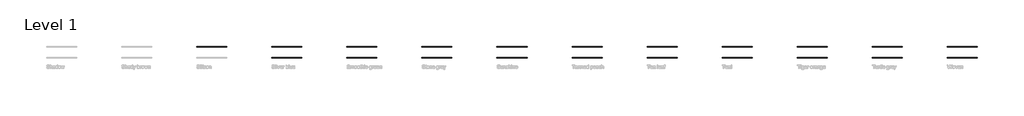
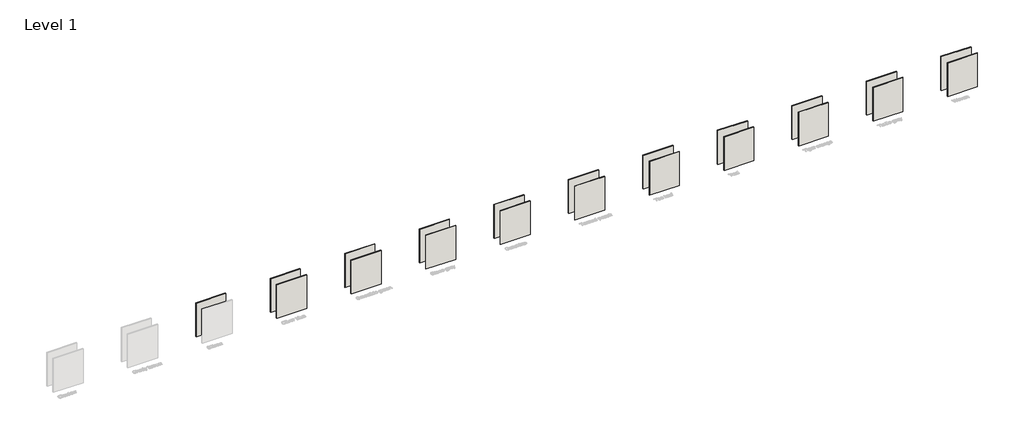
# One storey, part 4 of 113: 21 walls.
"""IFC4 building model written with IfcOpenShell, lengths in millimetres."""

from ifc_helpers import new_model, si_unit, origin, origin_with_axes, place, context, project, spatial, polyline, outline, extrude, element, save

model = new_model("IFC4")

# Units and contexts
model_context = context("Model", 3, world=origin())
ifc_project = project(units=[si_unit("LENGTHUNIT", "METRE", prefix="MILLI")], contexts=[model_context])

# Site, building, storey
site = spatial("IfcSite", under=ifc_project)
building = spatial("IfcBuilding", under=site)
storey = spatial("IfcBuildingStorey", under=building, Name="Level 1", Elevation=0.0)

# Walls
placement = place(None, origin())
element("IfcWall", 1, ObjectType="RSen_22_WA_partition wall - metal stud - chipboard - Clicwall CST Silicon  2785x600x10 mm_Unilin", at=placement, inside=storey, context=model_context, shape_type="SweptSolid", body=[
    extrude(outline(polyline([(525322.8, 6050.0), (521970.0, 6050.0), (521970.0, 6142.0), (525322.8, 6142.0), (525322.8, 6050.0)])), origin_with_axes(), (0.0, 0.0, 1.0), 4000.0),
])
element("IfcWall", 2, ObjectType="RSen_22_WA_partition wall - metal stud - Clicwall CST Silver blue 2785x600x10 mm_Unilin", at=placement, inside=storey, context=model_context, shape_type="SweptSolid", body=[
    extrude(outline(polyline([(533704.8, 4836.8), (530352.0, 4836.8), (530352.0, 4916.8), (533704.8, 4916.8), (533704.8, 4836.8)])), origin_with_axes(), (0.0, 0.0, 1.0), 4000.0),
])
element("IfcWall", 3, ObjectType="RSen_22_WA_partition wall - metal stud - chipboard - Clicwall CST Silver blue 2785x600x10 mm_Unilin", at=placement, inside=storey, context=model_context, shape_type="SweptSolid", body=[
    extrude(outline(polyline([(533704.8, 6050.0), (530352.0, 6050.0), (530352.0, 6142.0), (533704.8, 6142.0), (533704.8, 6050.0)])), origin_with_axes(), (0.0, 0.0, 1.0), 4000.0),
])
element("IfcWall", 4, ObjectType="RSen_22_WA_partition wall - metal stud - Clicwall CST Smoothie green 2785x600x10 mm_Unilin", at=placement, inside=storey, context=model_context, shape_type="SweptSolid", body=[
    extrude(outline(polyline([(542086.8, 4836.8), (538734.0, 4836.8), (538734.0, 4916.8), (542086.8, 4916.8), (542086.8, 4836.8)])), origin_with_axes(), (0.0, 0.0, 1.0), 4000.0),
])
element("IfcWall", 5, ObjectType="RSen_22_WA_partition wall - metal stud - chipboard - Clicwall CST Smoothie green 2785x600x10 mm_Unilin", at=placement, inside=storey, context=model_context, shape_type="SweptSolid", body=[
    extrude(outline(polyline([(542086.8, 6050.0), (538734.0, 6050.0), (538734.0, 6142.0), (542086.8, 6142.0), (542086.8, 6050.0)])), origin_with_axes(), (0.0, 0.0, 1.0), 4000.0),
])
element("IfcWall", 6, ObjectType="RSen_22_WA_partition wall - metal stud - Clicwall CST Stone grey 2785x600x10 mm_Unilin", at=placement, inside=storey, context=model_context, shape_type="SweptSolid", body=[
    extrude(outline(polyline([(550468.8, 4836.8), (547116.0, 4836.8), (547116.0, 4916.8), (550468.8, 4916.8), (550468.8, 4836.8)])), origin_with_axes(), (0.0, 0.0, 1.0), 4000.0),
])
element("IfcWall", 7, ObjectType="RSen_22_WA_partition wall - metal stud - chipboard - Clicwall CST Stone grey 2785x600x10 mm_Unilin", at=placement, inside=storey, context=model_context, shape_type="SweptSolid", body=[
    extrude(outline(polyline([(550468.8, 6050.0), (547116.0, 6050.0), (547116.0, 6142.0), (550468.8, 6142.0), (550468.8, 6050.0)])), origin_with_axes(), (0.0, 0.0, 1.0), 4000.0),
])
element("IfcWall", 8, ObjectType="RSen_22_WA_partition wall - metal stud - Clicwall CST Sunshine 2785x600x10 mm_Unilin", at=placement, inside=storey, context=model_context, shape_type="SweptSolid", body=[
    extrude(outline(polyline([(558850.8, 4836.8), (555498.0, 4836.8), (555498.0, 4916.8), (558850.8, 4916.8), (558850.8, 4836.8)])), origin_with_axes(), (0.0, 0.0, 1.0), 4000.0),
])
element("IfcWall", 9, ObjectType="RSen_22_WA_partition wall - metal stud - chipboard - Clicwall CST Sunshine 2785x600x10 mm_Unilin", at=placement, inside=storey, context=model_context, shape_type="SweptSolid", body=[
    extrude(outline(polyline([(558850.8, 6050.0), (555498.0, 6050.0), (555498.0, 6142.0), (558850.8, 6142.0), (558850.8, 6050.0)])), origin_with_axes(), (0.0, 0.0, 1.0), 4000.0),
])
element("IfcWall", 10, ObjectType="RSen_22_WA_partition wall - metal stud - Clicwall CST Tanned peach 2785x600x10 mm_Unilin", at=placement, inside=storey, context=model_context, shape_type="SweptSolid", body=[
    extrude(outline(polyline([(567232.8, 4836.8), (563880.0, 4836.8), (563880.0, 4916.8), (567232.8, 4916.8), (567232.8, 4836.8)])), origin_with_axes(), (0.0, 0.0, 1.0), 4000.0),
])
element("IfcWall", 11, ObjectType="RSen_22_WA_partition wall - metal stud - chipboard - Clicwall CST Tanned peach 2785x600x10 mm_Unilin", at=placement, inside=storey, context=model_context, shape_type="SweptSolid", body=[
    extrude(outline(polyline([(567232.8, 6050.0), (563880.0, 6050.0), (563880.0, 6142.0), (567232.8, 6142.0), (567232.8, 6050.0)])), origin_with_axes(), (0.0, 0.0, 1.0), 4000.0),
])
element("IfcWall", 12, ObjectType="RSen_22_WA_partition wall - metal stud - Clicwall CST Tea leaf 2785x600x10 mm_Unilin", at=placement, inside=storey, context=model_context, shape_type="SweptSolid", body=[
    extrude(outline(polyline([(575614.8, 4836.8), (572262.0, 4836.8), (572262.0, 4916.8), (575614.8, 4916.8), (575614.8, 4836.8)])), origin_with_axes(), (0.0, 0.0, 1.0), 4000.0),
])
element("IfcWall", 13, ObjectType="RSen_22_WA_partition wall - metal stud - chipboard - Clicwall CST Tea leaf 2785x600x10 mm_Unilin", at=placement, inside=storey, context=model_context, shape_type="SweptSolid", body=[
    extrude(outline(polyline([(575614.8, 6050.0), (572262.0, 6050.0), (572262.0, 6142.0), (575614.8, 6142.0), (575614.8, 6050.0)])), origin_with_axes(), (0.0, 0.0, 1.0), 4000.0),
])
element("IfcWall", 14, ObjectType="RSen_22_WA_partition wall - metal stud - Clicwall CST Teal 2785x600x10 mm_Unilin", at=placement, inside=storey, context=model_context, shape_type="SweptSolid", body=[
    extrude(outline(polyline([(583996.8, 4836.8), (580644.0, 4836.8), (580644.0, 4916.8), (583996.8, 4916.8), (583996.8, 4836.8)])), origin_with_axes(), (0.0, 0.0, 1.0), 4000.0),
])
element("IfcWall", 15, ObjectType="RSen_22_WA_partition wall - metal stud - chipboard - Clicwall CST Teal 2785x600x10 mm_Unilin", at=placement, inside=storey, context=model_context, shape_type="SweptSolid", body=[
    extrude(outline(polyline([(583996.8, 6050.0), (580644.0, 6050.0), (580644.0, 6142.0), (583996.8, 6142.0), (583996.8, 6050.0)])), origin_with_axes(), (0.0, 0.0, 1.0), 4000.0),
])
element("IfcWall", 16, ObjectType="RSen_22_WA_partition wall - metal stud - Clicwall CST Tiger orange 2785x600x10 mm_Unilin", at=placement, inside=storey, context=model_context, shape_type="SweptSolid", body=[
    extrude(outline(polyline([(592378.8, 4836.8), (589026.0, 4836.8), (589026.0, 4916.8), (592378.8, 4916.8), (592378.8, 4836.8)])), origin_with_axes(), (0.0, 0.0, 1.0), 4000.0),
])
element("IfcWall", 17, ObjectType="RSen_22_WA_partition wall - metal stud - chipboard - Clicwall CST Tiger orange 2785x600x10 mm_Unilin", at=placement, inside=storey, context=model_context, shape_type="SweptSolid", body=[
    extrude(outline(polyline([(592378.8, 6050.0), (589026.0, 6050.0), (589026.0, 6142.0), (592378.8, 6142.0), (592378.8, 6050.0)])), origin_with_axes(), (0.0, 0.0, 1.0), 4000.0),
])
element("IfcWall", 18, ObjectType="RSen_22_WA_partition wall - metal stud - Clicwall CST Turtle grey 2785x600x10 mm_Unilin", at=placement, inside=storey, context=model_context, shape_type="SweptSolid", body=[
    extrude(outline(polyline([(600760.8, 4836.8), (597408.0, 4836.8), (597408.0, 4916.8), (600760.8, 4916.8), (600760.8, 4836.8)])), origin_with_axes(), (0.0, 0.0, 1.0), 4000.0),
])
element("IfcWall", 19, ObjectType="RSen_22_WA_partition wall - metal stud - chipboard - Clicwall CST Turtle grey 2785x600x10 mm_Unilin", at=placement, inside=storey, context=model_context, shape_type="SweptSolid", body=[
    extrude(outline(polyline([(600760.8, 6050.0), (597408.0, 6050.0), (597408.0, 6142.0), (600760.8, 6142.0), (600760.8, 6050.0)])), origin_with_axes(), (0.0, 0.0, 1.0), 4000.0),
])
element("IfcWall", 20, ObjectType="RSen_22_WA_partition wall - metal stud - Clicwall CST Woven 2785x600x10 mm_Unilin", at=placement, inside=storey, context=model_context, shape_type="SweptSolid", body=[
    extrude(outline(polyline([(609142.8, 4836.8), (605790.0, 4836.8), (605790.0, 4916.8), (609142.8, 4916.8), (609142.8, 4836.8)])), origin_with_axes(), (0.0, 0.0, 1.0), 4000.0),
])
element("IfcWall", 21, ObjectType="RSen_22_WA_partition wall - metal stud - chipboard - Clicwall CST Woven 2785x600x10 mm_Unilin", at=placement, inside=storey, context=model_context, shape_type="SweptSolid", body=[
    extrude(outline(polyline([(609142.8, 6050.0), (605790.0, 6050.0), (605790.0, 6142.0), (609142.8, 6142.0), (609142.8, 6050.0)])), origin_with_axes(), (0.0, 0.0, 1.0), 4000.0),
])

save(model, "model.ifc")
